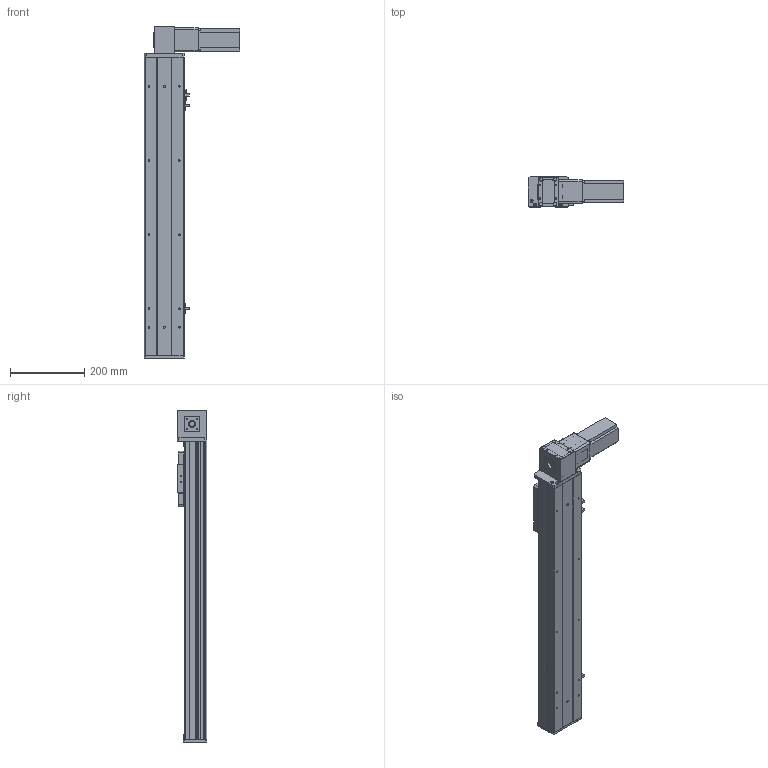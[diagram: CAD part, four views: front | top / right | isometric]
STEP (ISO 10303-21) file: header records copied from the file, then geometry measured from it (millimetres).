
FILE_DESCRIPTION (( 'STEP AP203' ), '1' );
FILE_NAME ('Y10CB-D90-S550-BD-P400W.STEP', '2020-02-17T02:25:48', ( '微软用户' ), ( '微软中国' ), 'SwSTEP 2.0', 'SolidWorks 2017', '' );
FILE_SCHEMA (( 'CONFIG_CONTROL_DESIGN' ));
Length unit declared in the file: millimetre
Products named in the file (16): 10CB-耜裔; Y10B-々湍喘謫眊楊擘啣--; Y135C-陔俋离換覜結え-; san松下电机400不带刹车----; Y100-135俋离換覜ん--; 0B-源倛裔啣; Y10B--々湍喘謫眊--666; 0B-埴倛裔啣; 0B-薊粣ん眊; 10CB-詩湍-; Y10CB-D90-S550-BD-P400W; Y10CB- 掛极耜裔啣-毀---; Y10C---詩湍揤啣; 0CB-雄赽釱---; 10CB9-掛极; 0Cb-俋欶---
Assembly tree (19 placements, depth 2):
  Y10CB-D90-S550-BD-P400W
    0CB-雄赽釱---
    0Cb-俋欶---
    Y10B-々湍喘謫眊楊擘啣--
    san松下电机400不带刹车----
    0B-源倛裔啣
    0B-埴倛裔啣
    10CB-詩湍-
    Y10CB- 掛极耜裔啣-毀---  x2
    Y10C---詩湍揤啣  x2
    10CB9-掛极
    10CB-耜裔
    Y135C-陔俋离換覜結え-
    Y100-135俋离換覜ん--  x3
    Y10B--々湍喘謫眊--666
    0B-薊粣ん眊
Bounding box: 258 x 80.5 x 896 mm (x, y, z)
Volume: 2350874.4 mm3; surface area: 971739.6 mm2
Topology: 19 solids, 19 shells, 876 faces, 2302 edges, 1508 vertices
Faces by surface type: plane 432, cylinder 420, cone 24
Entity records: 26569 total; most frequent: CARTESIAN_POINT 4608, DIRECTION 4321, ORIENTED_EDGE 4074, EDGE_CURVE 2037, AXIS2_PLACEMENT_3D 1551, VERTEX_POINT 1334, VECTOR 1219, LINE 1219
